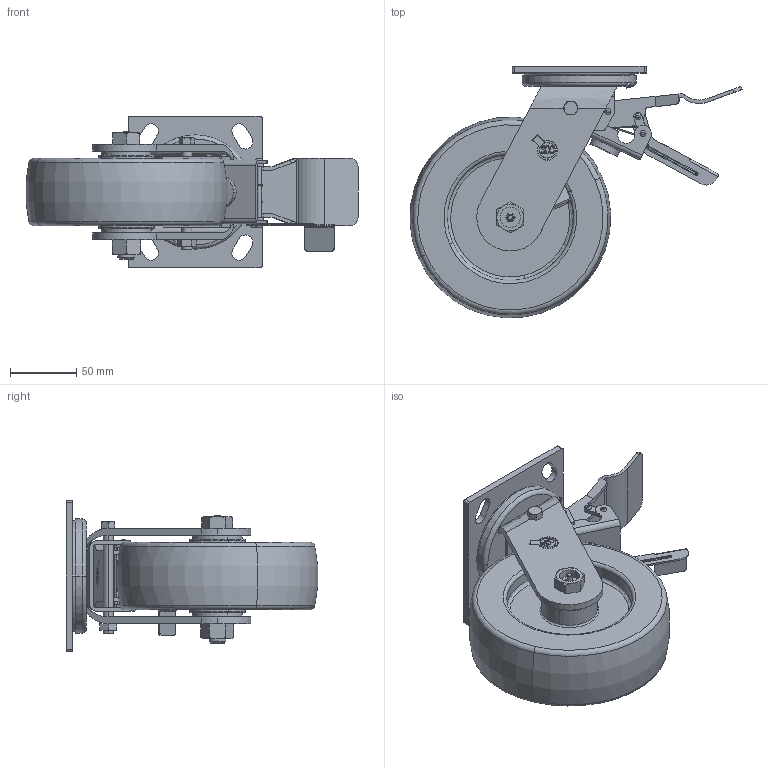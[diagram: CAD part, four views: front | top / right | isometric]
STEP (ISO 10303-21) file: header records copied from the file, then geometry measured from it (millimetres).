
FILE_DESCRIPTION (( 'STEP AP214' ), '1' );
FILE_NAME ('SCC-TTL30S620-POR 3D STEP.STEP', '2021-12-21T09:26:55', ( '' ), ( '' ), 'SwSTEP 2.0', 'SolidWorks 2016', '' );
FILE_SCHEMA (( 'AUTOMOTIVE_DESIGN' ));
Length unit declared in the file: inch
Products named in the file (1): SCC-TTL30S620-POR 3D STEP
Bounding box: 251.04 x 190.15 x 114.3 mm (x, y, z)
Volume: 986670.2 mm3; surface area: 176302 mm2
Topology: 13 solids, 13 shells, 703 faces, 1782 edges, 1151 vertices
Faces by surface type: plane 286, cylinder 201, bspline 117, torus 64, cone 33, sphere 2
Entity records: 38565 total; most frequent: CARTESIAN_POINT 12697, ORIENTED_EDGE 3558, DIRECTION 3233, EDGE_CURVE 1779, AXIS2_PLACEMENT_3D 1170, VERTEX_POINT 1151, VECTOR 893, LINE 893
